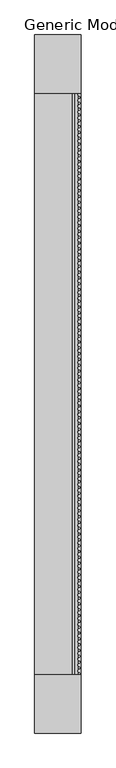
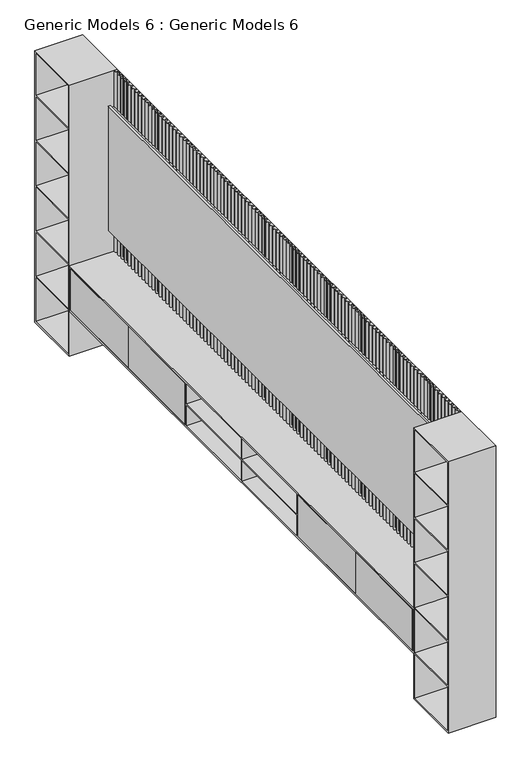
"""IFC4 building model written with IfcOpenShell, lengths in millimetres: proxy geometry, Generic Models 6 : Generic Models 6."""

from ifc_helpers import new_model, si_unit, point, frame, frame_2d, origin, place, context, project, spatial, polyline, circle_curve, trimmed, segment, composite_curve, outline, extrude, faceted_brep, source, transform, mapped, element, save


def generic_models_6_generic_models_6_49623b60(model_context):
    return source(origin(), model_context, "Body", "SolidModel", [
        extrude(outline(polyline([(10077.9525098, -4060.8133336), (10077.9525098, -3228.6133336), (10093.9525098, -3228.6133336), (10093.9525098, -4060.8133336), (10077.9525098, -4060.8133336)])), frame((0.0, 0.0, 418.0), z_axis=(0.0, 0.0, 1.0), x_axis=(1.0, 0.0, 0.0)), (0.0, 0.0, 1.0), 364.0),
        extrude(outline(polyline([(10077.9525098, -4891.0133336), (10077.9525098, -4062.8133336), (10093.9525098, -4062.8133336), (10093.9525098, -4891.0133336), (10077.9525098, -4891.0133336)])), frame((0.0, 0.0, 418.0), z_axis=(0.0, 0.0, 1.0), x_axis=(1.0, 0.0, 0.0)), (0.0, 0.0, 1.0), 364.0),
        extrude(outline(polyline([(10077.9525098, -762.4133336), (10077.9525098, 69.7866664), (10093.9525098, 69.7866664), (10093.9525098, -762.4133336), (10077.9525098, -762.4133336)])), frame((0.0, 0.0, 418.0), z_axis=(0.0, 0.0, 1.0), x_axis=(1.0, 0.0, 0.0)), (0.0, 0.0, 1.0), 364.0),
        extrude(outline(polyline([(10077.9525098, -1592.6133336), (10077.9525098, -764.4133336), (10093.9525098, -764.4133336), (10093.9525098, -1592.6133336), (10077.9525098, -1592.6133336)])), frame((0.0, 0.0, 418.0), z_axis=(0.0, 0.0, 1.0), x_axis=(1.0, 0.0, 0.0)), (0.0, 0.0, 1.0), 364.0),
        faceted_brep([(10077.9525098, 87.7866664, 400.0), (10077.9525098, -4909.0133336, 400.0), (10077.9525098, -4909.0133336, 800.0), (10077.9525098, 87.7866664, 800.0), (10077.9525098, -3210.6133336, 592.0), (10077.9525098, -3210.6133336, 416.0), (10077.9525098, -2418.6133336, 416.0), (10077.9525098, -2418.6133336, 592.0), (10077.9525098, -1610.6133336, 416.0), (10077.9525098, -1610.6133336, 592.0), (10077.9525098, -2402.6133336, 592.0), (10077.9525098, -2402.6133336, 416.0), (10077.9525098, -1610.6133336, 784.0), (10077.9525098, -2402.6133336, 784.0), (10077.9525098, -2402.6133336, 608.0), (10077.9525098, -1610.6133336, 608.0), (10077.9525098, -3210.6133336, 784.0), (10077.9525098, -3210.6133336, 608.0), (10077.9525098, -2418.6133336, 608.0), (10077.9525098, -2418.6133336, 784.0), (10077.9525098, -1594.6133336, 416.0), (10077.9525098, 71.7866664, 416.0), (10077.9525098, 71.7866664, 784.0), (10077.9525098, -1594.6133336, 784.0), (10077.9525098, -4893.0133336, 416.0), (10077.9525098, -3226.6133336, 416.0), (10077.9525098, -3226.6133336, 784.0), (10077.9525098, -4893.0133336, 784.0), (10477.9525098, 87.7866664, 400.0), (10477.9525098, 87.7866664, 800.0), (10477.9525098, -4909.0133336, 800.0), (10477.9525098, -4909.0133336, 400.0), (10457.9525098, -2402.6133336, 784.0), (10457.9525098, -1610.6133336, 784.0), (10457.9525098, -1610.6133336, 608.0), (10457.9525098, -2402.6133336, 608.0), (10457.9525098, -1610.6133336, 592.0), (10457.9525098, -1610.6133336, 416.0), (10457.9525098, -2402.6133336, 416.0), (10457.9525098, -2402.6133336, 592.0), (10457.9525098, -3210.6133336, 592.0), (10457.9525098, -2418.6133336, 592.0), (10457.9525098, -2418.6133336, 416.0), (10457.9525098, -3210.6133336, 416.0), (10457.9525098, -3210.6133336, 784.0), (10457.9525098, -2418.6133336, 784.0), (10457.9525098, -2418.6133336, 608.0), (10457.9525098, -3210.6133336, 608.0), (10093.9525098, -1594.6133336, 416.0), (10093.9525098, -1594.6133336, 784.0), (10093.9525098, 71.7866664, 784.0), (10093.9525098, 71.7866664, 416.0), (10093.9525098, -4893.0133336, 416.0), (10093.9525098, -4893.0133336, 784.0), (10093.9525098, -3226.6133336, 784.0), (10093.9525098, -3226.6133336, 416.0)], [[[0, 1, 2, 3], [4, 5, 6, 7], [8, 9, 10, 11], [12, 13, 14, 15], [16, 17, 18, 19], [20, 21, 22, 23], [24, 25, 26, 27]], [[28, 29, 30, 31]], [[1, 0, 28, 31]], [[2, 1, 31, 30]], [[3, 2, 30, 29]], [[0, 3, 29, 28]], [[32, 33, 34, 35]], [[36, 37, 38, 39]], [[40, 41, 42, 43]], [[44, 45, 46, 47]], [[40, 43, 5, 4]], [[43, 42, 6, 5]], [[37, 36, 9, 8]], [[33, 32, 13, 12]], [[42, 41, 7, 6]], [[41, 40, 4, 7]], [[36, 39, 10, 9]], [[39, 38, 11, 10]], [[38, 37, 8, 11]], [[32, 35, 14, 13]], [[35, 34, 15, 14]], [[34, 33, 12, 15]], [[44, 47, 17, 16]], [[47, 46, 18, 17]], [[46, 45, 19, 18]], [[45, 44, 16, 19]], [[48, 49, 50, 51]], [[52, 53, 54, 55]], [[48, 51, 21, 20]], [[51, 50, 22, 21]], [[50, 49, 23, 22]], [[49, 48, 20, 23]], [[52, 55, 25, 24]], [[55, 54, 26, 25]], [[54, 53, 27, 26]], [[53, 52, 24, 27]]]),
        faceted_brep([(10077.9525098, -5409.0133336, 0.0), (10077.9525098, -5409.0133336, 2400.0), (10077.9525098, -4909.0133336, 2400.0), (10077.9525098, -4909.0133336, 0.0), (10077.9525098, -4925.0133336, 400.0), (10077.9525098, -5393.0133336, 400.0), (10077.9525098, -5393.0133336, 16.0), (10077.9525098, -4925.0133336, 16.0), (10077.9525098, -4925.0133336, 800.0), (10077.9525098, -5393.0133336, 800.0), (10077.9525098, -5393.0133336, 416.0), (10077.9525098, -4925.0133336, 416.0), (10077.9525098, -4925.0133336, 816.0), (10077.9525098, -4925.0133336, 1200.0), (10077.9525098, -5393.0133336, 1200.0), (10077.9525098, -5393.0133336, 816.0), (10077.9525098, -4925.0133336, 1216.0), (10077.9525098, -4925.0133336, 1600.0), (10077.9525098, -5393.0133336, 1600.0), (10077.9525098, -5393.0133336, 1216.0), (10077.9525098, -4925.0133336, 1616.0), (10077.9525098, -4925.0133336, 2000.0), (10077.9525098, -5393.0133336, 2000.0), (10077.9525098, -5393.0133336, 1616.0), (10077.9525098, -4925.0133336, 2016.0), (10077.9525098, -4925.0133336, 2384.0), (10077.9525098, -5393.0133336, 2384.0), (10077.9525098, -5393.0133336, 2016.0), (10477.9525098, -5409.0133336, 0.0), (10477.9525098, -4909.0133336, 0.0), (10477.9525098, -4909.0133336, 2400.0), (10477.9525098, -5409.0133336, 2400.0), (10437.9525098, -4925.0133336, 400.0), (10437.9525098, -4925.0133336, 16.0), (10437.9525098, -5393.0133336, 16.0), (10437.9525098, -5393.0133336, 400.0), (10437.9525098, -4925.0133336, 800.0), (10437.9525098, -4925.0133336, 416.0), (10437.9525098, -5393.0133336, 416.0), (10437.9525098, -5393.0133336, 800.0), (10437.9525098, -4925.0133336, 816.0), (10437.9525098, -5393.0133336, 816.0), (10437.9525098, -5393.0133336, 1200.0), (10437.9525098, -4925.0133336, 1200.0), (10437.9525098, -4925.0133336, 1216.0), (10437.9525098, -5393.0133336, 1216.0), (10437.9525098, -5393.0133336, 1600.0), (10437.9525098, -4925.0133336, 1600.0), (10437.9525098, -4925.0133336, 1616.0), (10437.9525098, -5393.0133336, 1616.0), (10437.9525098, -5393.0133336, 2000.0), (10437.9525098, -4925.0133336, 2000.0), (10437.9525098, -4925.0133336, 2016.0), (10437.9525098, -5393.0133336, 2016.0), (10437.9525098, -5393.0133336, 2384.0), (10437.9525098, -4925.0133336, 2384.0)], [[[0, 1, 2, 3], [4, 5, 6, 7], [8, 9, 10, 11], [12, 13, 14, 15], [16, 17, 18, 19], [20, 21, 22, 23], [24, 25, 26, 27]], [[28, 29, 30, 31]], [[1, 0, 28, 31]], [[2, 1, 31, 30]], [[3, 2, 30, 29]], [[0, 3, 29, 28]], [[32, 33, 34, 35]], [[36, 37, 38, 39]], [[40, 41, 42, 43]], [[44, 45, 46, 47]], [[48, 49, 50, 51]], [[52, 53, 54, 55]], [[32, 35, 5, 4]], [[35, 34, 6, 5]], [[34, 33, 7, 6]], [[33, 32, 4, 7]], [[36, 39, 9, 8]], [[39, 38, 10, 9]], [[38, 37, 11, 10]], [[37, 36, 8, 11]], [[40, 43, 13, 12]], [[43, 42, 14, 13]], [[42, 41, 15, 14]], [[41, 40, 12, 15]], [[44, 47, 17, 16]], [[47, 46, 18, 17]], [[46, 45, 19, 18]], [[45, 44, 16, 19]], [[48, 51, 21, 20]], [[51, 50, 22, 21]], [[50, 49, 23, 22]], [[49, 48, 20, 23]], [[52, 55, 25, 24]], [[55, 54, 26, 25]], [[54, 53, 27, 26]], [[53, 52, 24, 27]]]),
        faceted_brep([(10077.9525098, 87.7866664, 2400.0), (10077.9525098, 587.7866664, 2400.0), (10077.9525098, 587.7866664, 0.0), (10077.9525098, 87.7866664, 0.0), (10077.9525098, 571.7866664, 400.0), (10077.9525098, 103.7866664, 400.0), (10077.9525098, 103.7866664, 16.0), (10077.9525098, 571.7866664, 16.0), (10077.9525098, 571.7866664, 800.0), (10077.9525098, 103.7866664, 800.0), (10077.9525098, 103.7866664, 416.0), (10077.9525098, 571.7866664, 416.0), (10077.9525098, 571.7866664, 816.0), (10077.9525098, 571.7866664, 1200.0), (10077.9525098, 103.7866664, 1200.0), (10077.9525098, 103.7866664, 816.0), (10077.9525098, 571.7866664, 1216.0), (10077.9525098, 571.7866664, 1600.0), (10077.9525098, 103.7866664, 1600.0), (10077.9525098, 103.7866664, 1216.0), (10077.9525098, 571.7866664, 1616.0), (10077.9525098, 571.7866664, 2000.0), (10077.9525098, 103.7866664, 2000.0), (10077.9525098, 103.7866664, 1616.0), (10077.9525098, 571.7866664, 2016.0), (10077.9525098, 571.7866664, 2384.0), (10077.9525098, 103.7866664, 2384.0), (10077.9525098, 103.7866664, 2016.0), (10477.9525098, 87.7866664, 2400.0), (10477.9525098, 87.7866664, 0.0), (10477.9525098, 587.7866664, 0.0), (10477.9525098, 587.7866664, 2400.0), (10437.9525098, 571.7866664, 400.0), (10437.9525098, 571.7866664, 16.0), (10437.9525098, 103.7866664, 16.0), (10437.9525098, 103.7866664, 400.0), (10437.9525098, 571.7866664, 800.0), (10437.9525098, 571.7866664, 416.0), (10437.9525098, 103.7866664, 416.0), (10437.9525098, 103.7866664, 800.0), (10437.9525098, 571.7866664, 816.0), (10437.9525098, 103.7866664, 816.0), (10437.9525098, 103.7866664, 1200.0), (10437.9525098, 571.7866664, 1200.0), (10437.9525098, 571.7866664, 1216.0), (10437.9525098, 103.7866664, 1216.0), (10437.9525098, 103.7866664, 1600.0), (10437.9525098, 571.7866664, 1600.0), (10437.9525098, 571.7866664, 1616.0), (10437.9525098, 103.7866664, 1616.0), (10437.9525098, 103.7866664, 2000.0), (10437.9525098, 571.7866664, 2000.0), (10437.9525098, 571.7866664, 2016.0), (10437.9525098, 103.7866664, 2016.0), (10437.9525098, 103.7866664, 2384.0), (10437.9525098, 571.7866664, 2384.0)], [[[0, 1, 2, 3], [4, 5, 6, 7], [8, 9, 10, 11], [12, 13, 14, 15], [16, 17, 18, 19], [20, 21, 22, 23], [24, 25, 26, 27]], [[28, 29, 30, 31]], [[1, 0, 28, 31]], [[2, 1, 31, 30]], [[3, 2, 30, 29]], [[0, 3, 29, 28]], [[32, 33, 34, 35]], [[36, 37, 38, 39]], [[40, 41, 42, 43]], [[44, 45, 46, 47]], [[48, 49, 50, 51]], [[52, 53, 54, 55]], [[32, 35, 5, 4]], [[35, 34, 6, 5]], [[34, 33, 7, 6]], [[33, 32, 4, 7]], [[36, 39, 9, 8]], [[39, 38, 10, 9]], [[38, 37, 11, 10]], [[37, 36, 8, 11]], [[40, 43, 13, 12]], [[43, 42, 14, 13]], [[42, 41, 15, 14]], [[41, 40, 12, 15]], [[44, 47, 17, 16]], [[47, 46, 18, 17]], [[46, 45, 19, 18]], [[45, 44, 16, 19]], [[48, 51, 21, 20]], [[51, 50, 22, 21]], [[50, 49, 23, 22]], [[49, 48, 20, 23]], [[52, 55, 25, 24]], [[55, 54, 26, 25]], [[54, 53, 27, 26]], [[53, 52, 24, 27]]]),
        extrude(outline(polyline([(2100.0, 10403.4562389), (1000.0, 10403.4562389), (1000.0, 10419.4562389), (1020.0, 10419.4562389), (1020.0, 10449.4562389), (2080.0, 10449.4562389), (2080.0, 10419.4562389), (2100.0, 10419.4562389), (2100.0, 10403.4562389)])), frame((0.0, -4909.0133336, 0.0), z_axis=(0.0, 1.0, 0.0), x_axis=(0.0, 0.0, 1.0)), (0.0, 0.0, 1.0), 4996.8),
        extrude(outline(composite_curve([segment(polyline([(10477.9525098, -4909.0133336), (10470.304755, -4909.0133336)]), True, "CONTINUOUS"), segment(trimmed(circle_curve(frame_2d((10461.9525098, -4899.7133336)), 12.5), [point((10470.304755, -4909.0133336))], [point((10461.9525098, -4887.2133336))], True, "CARTESIAN"), True, "CONTINUOUS"), segment(trimmed(circle_curve(frame_2d((10461.9525098, -4874.7133336)), 12.5), [point((10461.9525098, -4887.2133336))], [point((10461.9525098, -4862.2133336))], False, "CARTESIAN"), True, "CONTINUOUS"), segment(trimmed(circle_curve(frame_2d((10461.9525098, -4849.7133336)), 12.5), [point((10461.9525098, -4862.2133336))], [point((10461.9525098, -4837.2133336))], True, "CARTESIAN"), True, "CONTINUOUS"), segment(trimmed(circle_curve(frame_2d((10461.9525098, -4824.7133336)), 12.5), [point((10461.9525098, -4837.2133336))], [point((10461.9525098, -4812.2133336))], False, "CARTESIAN"), True, "CONTINUOUS"), segment(trimmed(circle_curve(frame_2d((10461.9525098, -4799.7133336)), 12.5), [point((10461.9525098, -4812.2133336))], [point((10461.9525098, -4787.2133336))], True, "CARTESIAN"), True, "CONTINUOUS"), segment(trimmed(circle_curve(frame_2d((10461.9525098, -4774.7133336)), 12.5), [point((10461.9525098, -4787.2133336))], [point((10461.9525098, -4762.2133336))], False, "CARTESIAN"), True, "CONTINUOUS"), segment(trimmed(circle_curve(frame_2d((10461.9525098, -4749.7133336)), 12.5), [point((10461.9525098, -4762.2133336))], [point((10461.9525098, -4737.2133336))], True, "CARTESIAN"), True, "CONTINUOUS"), segment(trimmed(circle_curve(frame_2d((10461.9525098, -4724.7133336)), 12.5), [point((10461.9525098, -4737.2133336))], [point((10461.9525098, -4712.2133336))], False, "CARTESIAN"), True, "CONTINUOUS"), segment(trimmed(circle_curve(frame_2d((10461.9525098, -4699.7133336)), 12.5), [point((10461.9525098, -4712.2133336))], [point((10461.9525098, -4687.2133336))], True, "CARTESIAN"), True, "CONTINUOUS"), segment(trimmed(circle_curve(frame_2d((10461.9525098, -4674.7133336)), 12.5), [point((10461.9525098, -4687.2133336))], [point((10461.9525098, -4662.2133336))], False, "CARTESIAN"), True, "CONTINUOUS"), segment(trimmed(circle_curve(frame_2d((10461.9525098, -4649.7133336)), 12.5), [point((10461.9525098, -4662.2133336))], [point((10461.9525098, -4637.2133336))], True, "CARTESIAN"), True, "CONTINUOUS"), segment(trimmed(circle_curve(frame_2d((10461.9525098, -4624.7133336)), 12.5), [point((10461.9525098, -4637.2133336))], [point((10461.9525098, -4612.2133336))], False, "CARTESIAN"), True, "CONTINUOUS"), segment(trimmed(circle_curve(frame_2d((10461.9525098, -4599.7133336)), 12.5), [point((10461.9525098, -4612.2133336))], [point((10461.9525098, -4587.2133336))], True, "CARTESIAN"), True, "CONTINUOUS"), segment(trimmed(circle_curve(frame_2d((10461.9525098, -4574.7133336)), 12.5), [point((10461.9525098, -4587.2133336))], [point((10461.9525098, -4562.2133336))], False, "CARTESIAN"), True, "CONTINUOUS"), segment(trimmed(circle_curve(frame_2d((10461.9525098, -4549.7133336)), 12.5), [point((10461.9525098, -4562.2133336))], [point((10461.9525098, -4537.2133336))], True, "CARTESIAN"), True, "CONTINUOUS"), segment(trimmed(circle_curve(frame_2d((10461.9525098, -4524.7133336)), 12.5), [point((10461.9525098, -4537.2133336))], [point((10461.9525098, -4512.2133336))], False, "CARTESIAN"), True, "CONTINUOUS"), segment(trimmed(circle_curve(frame_2d((10461.9525098, -4499.7133336)), 12.5), [point((10461.9525098, -4512.2133336))], [point((10461.9525098, -4487.2133336))], True, "CARTESIAN"), True, "CONTINUOUS"), segment(trimmed(circle_curve(frame_2d((10461.9525098, -4474.7133336)), 12.5), [point((10461.9525098, -4487.2133336))], [point((10461.9525098, -4462.2133336))], False, "CARTESIAN"), True, "CONTINUOUS"), segment(trimmed(circle_curve(frame_2d((10461.9525098, -4449.7133336)), 12.5), [point((10461.9525098, -4462.2133336))], [point((10461.9525098, -4437.2133336))], True, "CARTESIAN"), True, "CONTINUOUS"), segment(trimmed(circle_curve(frame_2d((10461.9525098, -4424.7133336)), 12.5), [point((10461.9525098, -4437.2133336))], [point((10461.9525098, -4412.2133336))], False, "CARTESIAN"), True, "CONTINUOUS"), segment(trimmed(circle_curve(frame_2d((10461.9525098, -4399.7133336)), 12.5), [point((10461.9525098, -4412.2133336))], [point((10461.9525098, -4387.2133336))], True, "CARTESIAN"), True, "CONTINUOUS"), segment(trimmed(circle_curve(frame_2d((10461.9525098, -4374.7133336)), 12.5), [point((10461.9525098, -4387.2133336))], [point((10461.9525098, -4362.2133336))], False, "CARTESIAN"), True, "CONTINUOUS"), segment(trimmed(circle_curve(frame_2d((10461.9525098, -4349.7133336)), 12.5), [point((10461.9525098, -4362.2133336))], [point((10461.9525098, -4337.2133336))], True, "CARTESIAN"), True, "CONTINUOUS"), segment(trimmed(circle_curve(frame_2d((10461.9525098, -4324.7133336)), 12.5), [point((10461.9525098, -4337.2133336))], [point((10461.9525098, -4312.2133336))], False, "CARTESIAN"), True, "CONTINUOUS"), segment(trimmed(circle_curve(frame_2d((10461.9525098, -4299.7133336)), 12.5), [point((10461.9525098, -4312.2133336))], [point((10461.9525098, -4287.2133336))], True, "CARTESIAN"), True, "CONTINUOUS"), segment(trimmed(circle_curve(frame_2d((10461.9525098, -4274.7133336)), 12.5), [point((10461.9525098, -4287.2133336))], [point((10461.9525098, -4262.2133336))], False, "CARTESIAN"), True, "CONTINUOUS"), segment(trimmed(circle_curve(frame_2d((10461.9525098, -4249.7133336)), 12.5), [point((10461.9525098, -4262.2133336))], [point((10461.9525098, -4237.2133336))], True, "CARTESIAN"), True, "CONTINUOUS"), segment(trimmed(circle_curve(frame_2d((10461.9525098, -4224.7133336)), 12.5), [point((10461.9525098, -4237.2133336))], [point((10461.9525098, -4212.2133336))], False, "CARTESIAN"), True, "CONTINUOUS"), segment(trimmed(circle_curve(frame_2d((10461.9525098, -4199.7133336)), 12.5), [point((10461.9525098, -4212.2133336))], [point((10461.9525098, -4187.2133336))], True, "CARTESIAN"), True, "CONTINUOUS"), segment(trimmed(circle_curve(frame_2d((10461.9525098, -4174.7133336)), 12.5), [point((10461.9525098, -4187.2133336))], [point((10461.9525098, -4162.2133336))], False, "CARTESIAN"), True, "CONTINUOUS"), segment(trimmed(circle_curve(frame_2d((10461.9525098, -4149.7133336)), 12.5), [point((10461.9525098, -4162.2133336))], [point((10461.9525098, -4137.2133336))], True, "CARTESIAN"), True, "CONTINUOUS"), segment(trimmed(circle_curve(frame_2d((10461.9525098, -4124.7133336)), 12.5), [point((10461.9525098, -4137.2133336))], [point((10461.9525098, -4112.2133336))], False, "CARTESIAN"), True, "CONTINUOUS"), segment(trimmed(circle_curve(frame_2d((10461.9525098, -4099.7133336)), 12.5), [point((10461.9525098, -4112.2133336))], [point((10461.9525098, -4087.2133336))], True, "CARTESIAN"), True, "CONTINUOUS"), segment(trimmed(circle_curve(frame_2d((10461.9525098, -4074.7133336)), 12.5), [point((10461.9525098, -4087.2133336))], [point((10461.9525098, -4062.2133336))], False, "CARTESIAN"), True, "CONTINUOUS"), segment(trimmed(circle_curve(frame_2d((10461.9525098, -4049.7133336)), 12.5), [point((10461.9525098, -4062.2133336))], [point((10461.9525098, -4037.2133336))], True, "CARTESIAN"), True, "CONTINUOUS"), segment(trimmed(circle_curve(frame_2d((10461.9525098, -4024.7133336)), 12.5), [point((10461.9525098, -4037.2133336))], [point((10461.9525098, -4012.2133336))], False, "CARTESIAN"), True, "CONTINUOUS"), segment(trimmed(circle_curve(frame_2d((10461.9525098, -3999.7133336)), 12.5), [point((10461.9525098, -4012.2133336))], [point((10461.9525098, -3987.2133336))], True, "CARTESIAN"), True, "CONTINUOUS"), segment(trimmed(circle_curve(frame_2d((10461.9525098, -3974.7133336)), 12.5), [point((10461.9525098, -3987.2133336))], [point((10461.9525098, -3962.2133336))], False, "CARTESIAN"), True, "CONTINUOUS"), segment(trimmed(circle_curve(frame_2d((10461.9525098, -3949.7133336)), 12.5), [point((10461.9525098, -3962.2133336))], [point((10461.9525098, -3937.2133336))], True, "CARTESIAN"), True, "CONTINUOUS"), segment(trimmed(circle_curve(frame_2d((10461.9525098, -3924.7133336)), 12.5), [point((10461.9525098, -3937.2133336))], [point((10461.9525098, -3912.2133336))], False, "CARTESIAN"), True, "CONTINUOUS"), segment(trimmed(circle_curve(frame_2d((10461.9525098, -3899.7133336)), 12.5), [point((10461.9525098, -3912.2133336))], [point((10461.9525098, -3887.2133336))], True, "CARTESIAN"), True, "CONTINUOUS"), segment(trimmed(circle_curve(frame_2d((10461.9525098, -3874.7133336)), 12.5), [point((10461.9525098, -3887.2133336))], [point((10461.9525098, -3862.2133336))], False, "CARTESIAN"), True, "CONTINUOUS"), segment(trimmed(circle_curve(frame_2d((10461.9525098, -3849.7133336)), 12.5), [point((10461.9525098, -3862.2133336))], [point((10461.9525098, -3837.2133336))], True, "CARTESIAN"), True, "CONTINUOUS"), segment(trimmed(circle_curve(frame_2d((10461.9525098, -3824.7133336)), 12.5), [point((10461.9525098, -3837.2133336))], [point((10461.9525098, -3812.2133336))], False, "CARTESIAN"), True, "CONTINUOUS"), segment(trimmed(circle_curve(frame_2d((10461.9525098, -3799.7133336)), 12.5), [point((10461.9525098, -3812.2133336))], [point((10461.9525098, -3787.2133336))], True, "CARTESIAN"), True, "CONTINUOUS"), segment(trimmed(circle_curve(frame_2d((10461.9525098, -3774.7133336)), 12.5), [point((10461.9525098, -3787.2133336))], [point((10461.9525098, -3762.2133336))], False, "CARTESIAN"), True, "CONTINUOUS"), segment(trimmed(circle_curve(frame_2d((10461.9525098, -3749.7133336)), 12.5), [point((10461.9525098, -3762.2133336))], [point((10461.9525098, -3737.2133336))], True, "CARTESIAN"), True, "CONTINUOUS"), segment(trimmed(circle_curve(frame_2d((10461.9525098, -3724.7133336)), 12.5), [point((10461.9525098, -3737.2133336))], [point((10461.9525098, -3712.2133336))], False, "CARTESIAN"), True, "CONTINUOUS"), segment(trimmed(circle_curve(frame_2d((10461.9525098, -3699.7133336)), 12.5), [point((10461.9525098, -3712.2133336))], [point((10461.9525098, -3687.2133336))], True, "CARTESIAN"), True, "CONTINUOUS"), segment(trimmed(circle_curve(frame_2d((10461.9525098, -3674.7133336)), 12.5), [point((10461.9525098, -3687.2133336))], [point((10461.9525098, -3662.2133336))], False, "CARTESIAN"), True, "CONTINUOUS"), segment(trimmed(circle_curve(frame_2d((10461.9525098, -3649.7133336)), 12.5), [point((10461.9525098, -3662.2133336))], [point((10461.9525098, -3637.2133336))], True, "CARTESIAN"), True, "CONTINUOUS"), segment(trimmed(circle_curve(frame_2d((10461.9525098, -3624.7133336)), 12.5), [point((10461.9525098, -3637.2133336))], [point((10461.9525098, -3612.2133336))], False, "CARTESIAN"), True, "CONTINUOUS"), segment(trimmed(circle_curve(frame_2d((10461.9525098, -3599.7133336)), 12.5), [point((10461.9525098, -3612.2133336))], [point((10461.9525098, -3587.2133336))], True, "CARTESIAN"), True, "CONTINUOUS"), segment(trimmed(circle_curve(frame_2d((10461.9525098, -3574.7133336)), 12.5), [point((10461.9525098, -3587.2133336))], [point((10461.9525098, -3562.2133336))], False, "CARTESIAN"), True, "CONTINUOUS"), segment(trimmed(circle_curve(frame_2d((10461.9525098, -3549.7133336)), 12.5), [point((10461.9525098, -3562.2133336))], [point((10461.9525098, -3537.2133336))], True, "CARTESIAN"), True, "CONTINUOUS"), segment(trimmed(circle_curve(frame_2d((10461.9525098, -3524.7133336)), 12.5), [point((10461.9525098, -3537.2133336))], [point((10461.9525098, -3512.2133336))], False, "CARTESIAN"), True, "CONTINUOUS"), segment(trimmed(circle_curve(frame_2d((10461.9525098, -3499.7133336)), 12.5), [point((10461.9525098, -3512.2133336))], [point((10461.9525098, -3487.2133336))], True, "CARTESIAN"), True, "CONTINUOUS"), segment(trimmed(circle_curve(frame_2d((10461.9525098, -3474.7133336)), 12.5), [point((10461.9525098, -3487.2133336))], [point((10461.9525098, -3462.2133336))], False, "CARTESIAN"), True, "CONTINUOUS"), segment(trimmed(circle_curve(frame_2d((10461.9525098, -3449.7133336)), 12.5), [point((10461.9525098, -3462.2133336))], [point((10461.9525098, -3437.2133336))], True, "CARTESIAN"), True, "CONTINUOUS"), segment(trimmed(circle_curve(frame_2d((10461.9525098, -3424.7133336)), 12.5), [point((10461.9525098, -3437.2133336))], [point((10461.9525098, -3412.2133336))], False, "CARTESIAN"), True, "CONTINUOUS"), segment(trimmed(circle_curve(frame_2d((10461.9525098, -3399.7133336)), 12.5), [point((10461.9525098, -3412.2133336))], [point((10461.9525098, -3387.2133336))], True, "CARTESIAN"), True, "CONTINUOUS"), segment(trimmed(circle_curve(frame_2d((10461.9525098, -3374.7133336)), 12.5), [point((10461.9525098, -3387.2133336))], [point((10461.9525098, -3362.2133336))], False, "CARTESIAN"), True, "CONTINUOUS"), segment(trimmed(circle_curve(frame_2d((10461.9525098, -3349.7133336)), 12.5), [point((10461.9525098, -3362.2133336))], [point((10461.9525098, -3337.2133336))], True, "CARTESIAN"), True, "CONTINUOUS"), segment(trimmed(circle_curve(frame_2d((10461.9525098, -3324.7133336)), 12.5), [point((10461.9525098, -3337.2133336))], [point((10461.9525098, -3312.2133336))], False, "CARTESIAN"), True, "CONTINUOUS"), segment(trimmed(circle_curve(frame_2d((10461.9525098, -3299.7133336)), 12.5), [point((10461.9525098, -3312.2133336))], [point((10461.9525098, -3287.2133336))], True, "CARTESIAN"), True, "CONTINUOUS"), segment(trimmed(circle_curve(frame_2d((10461.9525098, -3274.7133336)), 12.5), [point((10461.9525098, -3287.2133336))], [point((10461.9525098, -3262.2133336))], False, "CARTESIAN"), True, "CONTINUOUS"), segment(trimmed(circle_curve(frame_2d((10461.9525098, -3249.7133336)), 12.5), [point((10461.9525098, -3262.2133336))], [point((10461.9525098, -3237.2133336))], True, "CARTESIAN"), True, "CONTINUOUS"), segment(trimmed(circle_curve(frame_2d((10461.9525098, -3224.7133336)), 12.5), [point((10461.9525098, -3237.2133336))], [point((10461.9525098, -3212.2133336))], False, "CARTESIAN"), True, "CONTINUOUS"), segment(trimmed(circle_curve(frame_2d((10461.9525098, -3199.7133336)), 12.5), [point((10461.9525098, -3212.2133336))], [point((10461.9525098, -3187.2133336))], True, "CARTESIAN"), True, "CONTINUOUS"), segment(trimmed(circle_curve(frame_2d((10461.9525098, -3174.7133336)), 12.5), [point((10461.9525098, -3187.2133336))], [point((10461.9525098, -3162.2133336))], False, "CARTESIAN"), True, "CONTINUOUS"), segment(trimmed(circle_curve(frame_2d((10461.9525098, -3149.7133336)), 12.5), [point((10461.9525098, -3162.2133336))], [point((10461.9525098, -3137.2133336))], True, "CARTESIAN"), True, "CONTINUOUS"), segment(trimmed(circle_curve(frame_2d((10461.9525098, -3124.7133336)), 12.5), [point((10461.9525098, -3137.2133336))], [point((10461.9525098, -3112.2133336))], False, "CARTESIAN"), True, "CONTINUOUS"), segment(trimmed(circle_curve(frame_2d((10461.9525098, -3099.7133336)), 12.5), [point((10461.9525098, -3112.2133336))], [point((10461.9525098, -3087.2133336))], True, "CARTESIAN"), True, "CONTINUOUS"), segment(trimmed(circle_curve(frame_2d((10461.9525098, -3074.7133336)), 12.5), [point((10461.9525098, -3087.2133336))], [point((10461.9525098, -3062.2133336))], False, "CARTESIAN"), True, "CONTINUOUS"), segment(trimmed(circle_curve(frame_2d((10461.9525098, -3049.7133336)), 12.5), [point((10461.9525098, -3062.2133336))], [point((10461.9525098, -3037.2133336))], True, "CARTESIAN"), True, "CONTINUOUS"), segment(trimmed(circle_curve(frame_2d((10461.9525098, -3024.7133336)), 12.5), [point((10461.9525098, -3037.2133336))], [point((10461.9525098, -3012.2133336))], False, "CARTESIAN"), True, "CONTINUOUS"), segment(trimmed(circle_curve(frame_2d((10461.9525098, -2999.7133336)), 12.5), [point((10461.9525098, -3012.2133336))], [point((10461.9525098, -2987.2133336))], True, "CARTESIAN"), True, "CONTINUOUS"), segment(trimmed(circle_curve(frame_2d((10461.9525098, -2974.7133336)), 12.5), [point((10461.9525098, -2987.2133336))], [point((10461.9525098, -2962.2133336))], False, "CARTESIAN"), True, "CONTINUOUS"), segment(trimmed(circle_curve(frame_2d((10461.9525098, -2949.7133336)), 12.5), [point((10461.9525098, -2962.2133336))], [point((10461.9525098, -2937.2133336))], True, "CARTESIAN"), True, "CONTINUOUS"), segment(trimmed(circle_curve(frame_2d((10461.9525098, -2924.7133336)), 12.5), [point((10461.9525098, -2937.2133336))], [point((10461.9525098, -2912.2133336))], False, "CARTESIAN"), True, "CONTINUOUS"), segment(trimmed(circle_curve(frame_2d((10461.9525098, -2899.7133336)), 12.5), [point((10461.9525098, -2912.2133336))], [point((10461.9525098, -2887.2133336))], True, "CARTESIAN"), True, "CONTINUOUS"), segment(trimmed(circle_curve(frame_2d((10461.9525098, -2874.7133336)), 12.5), [point((10461.9525098, -2887.2133336))], [point((10461.9525098, -2862.2133336))], False, "CARTESIAN"), True, "CONTINUOUS"), segment(trimmed(circle_curve(frame_2d((10461.9525098, -2849.7133336)), 12.5), [point((10461.9525098, -2862.2133336))], [point((10461.9525098, -2837.2133336))], True, "CARTESIAN"), True, "CONTINUOUS"), segment(trimmed(circle_curve(frame_2d((10461.9525098, -2824.7133336)), 12.5), [point((10461.9525098, -2837.2133336))], [point((10461.9525098, -2812.2133336))], False, "CARTESIAN"), True, "CONTINUOUS"), segment(trimmed(circle_curve(frame_2d((10461.9525098, -2799.7133336)), 12.5), [point((10461.9525098, -2812.2133336))], [point((10461.9525098, -2787.2133336))], True, "CARTESIAN"), True, "CONTINUOUS"), segment(trimmed(circle_curve(frame_2d((10461.9525098, -2774.7133336)), 12.5), [point((10461.9525098, -2787.2133336))], [point((10461.9525098, -2762.2133336))], False, "CARTESIAN"), True, "CONTINUOUS"), segment(trimmed(circle_curve(frame_2d((10461.9525098, -2749.7133336)), 12.5), [point((10461.9525098, -2762.2133336))], [point((10461.9525098, -2737.2133336))], True, "CARTESIAN"), True, "CONTINUOUS"), segment(trimmed(circle_curve(frame_2d((10461.9525098, -2724.7133336)), 12.5), [point((10461.9525098, -2737.2133336))], [point((10461.9525098, -2712.2133336))], False, "CARTESIAN"), True, "CONTINUOUS"), segment(trimmed(circle_curve(frame_2d((10461.9525098, -2699.7133336)), 12.5), [point((10461.9525098, -2712.2133336))], [point((10461.9525098, -2687.2133336))], True, "CARTESIAN"), True, "CONTINUOUS"), segment(trimmed(circle_curve(frame_2d((10461.9525098, -2674.7133336)), 12.5), [point((10461.9525098, -2687.2133336))], [point((10461.9525098, -2662.2133336))], False, "CARTESIAN"), True, "CONTINUOUS"), segment(trimmed(circle_curve(frame_2d((10461.9525098, -2649.7133336)), 12.5), [point((10461.9525098, -2662.2133336))], [point((10461.9525098, -2637.2133336))], True, "CARTESIAN"), True, "CONTINUOUS"), segment(trimmed(circle_curve(frame_2d((10461.9525098, -2624.7133336)), 12.5), [point((10461.9525098, -2637.2133336))], [point((10461.9525098, -2612.2133336))], False, "CARTESIAN"), True, "CONTINUOUS"), segment(trimmed(circle_curve(frame_2d((10461.9525098, -2599.7133336)), 12.5), [point((10461.9525098, -2612.2133336))], [point((10461.9525098, -2587.2133336))], True, "CARTESIAN"), True, "CONTINUOUS"), segment(trimmed(circle_curve(frame_2d((10461.9525098, -2574.7133336)), 12.5), [point((10461.9525098, -2587.2133336))], [point((10461.9525098, -2562.2133336))], False, "CARTESIAN"), True, "CONTINUOUS"), segment(trimmed(circle_curve(frame_2d((10461.9525098, -2549.7133336)), 12.5), [point((10461.9525098, -2562.2133336))], [point((10461.9525098, -2537.2133336))], True, "CARTESIAN"), True, "CONTINUOUS"), segment(trimmed(circle_curve(frame_2d((10461.9525098, -2524.7133336)), 12.5), [point((10461.9525098, -2537.2133336))], [point((10461.9525098, -2512.2133336))], False, "CARTESIAN"), True, "CONTINUOUS"), segment(trimmed(circle_curve(frame_2d((10461.9525098, -2499.7133336)), 12.5), [point((10461.9525098, -2512.2133336))], [point((10461.9525098, -2487.2133336))], True, "CARTESIAN"), True, "CONTINUOUS"), segment(trimmed(circle_curve(frame_2d((10461.9525098, -2474.7133336)), 12.5), [point((10461.9525098, -2487.2133336))], [point((10461.9525098, -2462.2133336))], False, "CARTESIAN"), True, "CONTINUOUS"), segment(trimmed(circle_curve(frame_2d((10461.9525098, -2449.7133336)), 12.5), [point((10461.9525098, -2462.2133336))], [point((10461.9525098, -2437.2133336))], True, "CARTESIAN"), True, "CONTINUOUS"), segment(trimmed(circle_curve(frame_2d((10461.9525098, -2424.7133336)), 12.5), [point((10461.9525098, -2437.2133336))], [point((10461.9525098, -2412.2133336))], False, "CARTESIAN"), True, "CONTINUOUS"), segment(trimmed(circle_curve(frame_2d((10461.9525098, -2399.7133336)), 12.5), [point((10461.9525098, -2412.2133336))], [point((10461.9525098, -2387.2133336))], True, "CARTESIAN"), True, "CONTINUOUS"), segment(trimmed(circle_curve(frame_2d((10461.9525098, -2374.7133336)), 12.5), [point((10461.9525098, -2387.2133336))], [point((10461.9525098, -2362.2133336))], False, "CARTESIAN"), True, "CONTINUOUS"), segment(trimmed(circle_curve(frame_2d((10461.9525098, -2349.7133336)), 12.5), [point((10461.9525098, -2362.2133336))], [point((10461.9525098, -2337.2133336))], True, "CARTESIAN"), True, "CONTINUOUS"), segment(trimmed(circle_curve(frame_2d((10461.9525098, -2324.7133336)), 12.5), [point((10461.9525098, -2337.2133336))], [point((10461.9525098, -2312.2133336))], False, "CARTESIAN"), True, "CONTINUOUS"), segment(trimmed(circle_curve(frame_2d((10461.9525098, -2299.7133336)), 12.5), [point((10461.9525098, -2312.2133336))], [point((10461.9525098, -2287.2133336))], True, "CARTESIAN"), True, "CONTINUOUS"), segment(trimmed(circle_curve(frame_2d((10461.9525098, -2274.7133336)), 12.5), [point((10461.9525098, -2287.2133336))], [point((10461.9525098, -2262.2133336))], False, "CARTESIAN"), True, "CONTINUOUS"), segment(trimmed(circle_curve(frame_2d((10461.9525098, -2249.7133336)), 12.5), [point((10461.9525098, -2262.2133336))], [point((10461.9525098, -2237.2133336))], True, "CARTESIAN"), True, "CONTINUOUS"), segment(trimmed(circle_curve(frame_2d((10461.9525098, -2224.7133336)), 12.5), [point((10461.9525098, -2237.2133336))], [point((10461.9525098, -2212.2133336))], False, "CARTESIAN"), True, "CONTINUOUS"), segment(trimmed(circle_curve(frame_2d((10461.9525098, -2199.7133336)), 12.5), [point((10461.9525098, -2212.2133336))], [point((10461.9525098, -2187.2133336))], True, "CARTESIAN"), True, "CONTINUOUS"), segment(trimmed(circle_curve(frame_2d((10461.9525098, -2174.7133336)), 12.5), [point((10461.9525098, -2187.2133336))], [point((10461.9525098, -2162.2133336))], False, "CARTESIAN"), True, "CONTINUOUS"), segment(trimmed(circle_curve(frame_2d((10461.9525098, -2149.7133336)), 12.5), [point((10461.9525098, -2162.2133336))], [point((10461.9525098, -2137.2133336))], True, "CARTESIAN"), True, "CONTINUOUS"), segment(trimmed(circle_curve(frame_2d((10461.9525098, -2124.7133336)), 12.5), [point((10461.9525098, -2137.2133336))], [point((10461.9525098, -2112.2133336))], False, "CARTESIAN"), True, "CONTINUOUS"), segment(trimmed(circle_curve(frame_2d((10461.9525098, -2099.7133336)), 12.5), [point((10461.9525098, -2112.2133336))], [point((10461.9525098, -2087.2133336))], True, "CARTESIAN"), True, "CONTINUOUS"), segment(trimmed(circle_curve(frame_2d((10461.9525098, -2074.7133336)), 12.5), [point((10461.9525098, -2087.2133336))], [point((10461.9525098, -2062.2133336))], False, "CARTESIAN"), True, "CONTINUOUS"), segment(trimmed(circle_curve(frame_2d((10461.9525098, -2049.7133336)), 12.5), [point((10461.9525098, -2062.2133336))], [point((10461.9525098, -2037.2133336))], True, "CARTESIAN"), True, "CONTINUOUS"), segment(trimmed(circle_curve(frame_2d((10461.9525098, -2024.7133336)), 12.5), [point((10461.9525098, -2037.2133336))], [point((10461.9525098, -2012.2133336))], False, "CARTESIAN"), True, "CONTINUOUS"), segment(trimmed(circle_curve(frame_2d((10461.9525098, -1999.7133336)), 12.5), [point((10461.9525098, -2012.2133336))], [point((10461.9525098, -1987.2133336))], True, "CARTESIAN"), True, "CONTINUOUS"), segment(trimmed(circle_curve(frame_2d((10461.9525098, -1974.7133336)), 12.5), [point((10461.9525098, -1987.2133336))], [point((10461.9525098, -1962.2133336))], False, "CARTESIAN"), True, "CONTINUOUS"), segment(trimmed(circle_curve(frame_2d((10461.9525098, -1949.7133336)), 12.5), [point((10461.9525098, -1962.2133336))], [point((10461.9525098, -1937.2133336))], True, "CARTESIAN"), True, "CONTINUOUS"), segment(trimmed(circle_curve(frame_2d((10461.9525098, -1924.7133336)), 12.5), [point((10461.9525098, -1937.2133336))], [point((10461.9525098, -1912.2133336))], False, "CARTESIAN"), True, "CONTINUOUS"), segment(trimmed(circle_curve(frame_2d((10461.9525098, -1899.7133336)), 12.5), [point((10461.9525098, -1912.2133336))], [point((10461.9525098, -1887.2133336))], True, "CARTESIAN"), True, "CONTINUOUS"), segment(trimmed(circle_curve(frame_2d((10461.9525098, -1874.7133336)), 12.5), [point((10461.9525098, -1887.2133336))], [point((10461.9525098, -1862.2133336))], False, "CARTESIAN"), True, "CONTINUOUS"), segment(trimmed(circle_curve(frame_2d((10461.9525098, -1849.7133336)), 12.5), [point((10461.9525098, -1862.2133336))], [point((10461.9525098, -1837.2133336))], True, "CARTESIAN"), True, "CONTINUOUS"), segment(trimmed(circle_curve(frame_2d((10461.9525098, -1824.7133336)), 12.5), [point((10461.9525098, -1837.2133336))], [point((10461.9525098, -1812.2133336))], False, "CARTESIAN"), True, "CONTINUOUS"), segment(trimmed(circle_curve(frame_2d((10461.9525098, -1799.7133336)), 12.5), [point((10461.9525098, -1812.2133336))], [point((10461.9525098, -1787.2133336))], True, "CARTESIAN"), True, "CONTINUOUS"), segment(trimmed(circle_curve(frame_2d((10461.9525098, -1774.7133336)), 12.5), [point((10461.9525098, -1787.2133336))], [point((10461.9525098, -1762.2133336))], False, "CARTESIAN"), True, "CONTINUOUS"), segment(trimmed(circle_curve(frame_2d((10461.9525098, -1749.7133336)), 12.5), [point((10461.9525098, -1762.2133336))], [point((10461.9525098, -1737.2133336))], True, "CARTESIAN"), True, "CONTINUOUS"), segment(trimmed(circle_curve(frame_2d((10461.9525098, -1724.7133336)), 12.5), [point((10461.9525098, -1737.2133336))], [point((10461.9525098, -1712.2133336))], False, "CARTESIAN"), True, "CONTINUOUS"), segment(trimmed(circle_curve(frame_2d((10461.9525098, -1699.7133336)), 12.5), [point((10461.9525098, -1712.2133336))], [point((10461.9525098, -1687.2133336))], True, "CARTESIAN"), True, "CONTINUOUS"), segment(trimmed(circle_curve(frame_2d((10461.9525098, -1674.7133336)), 12.5), [point((10461.9525098, -1687.2133336))], [point((10461.9525098, -1662.2133336))], False, "CARTESIAN"), True, "CONTINUOUS"), segment(trimmed(circle_curve(frame_2d((10461.9525098, -1649.7133336)), 12.5), [point((10461.9525098, -1662.2133336))], [point((10461.9525098, -1637.2133336))], True, "CARTESIAN"), True, "CONTINUOUS"), segment(trimmed(circle_curve(frame_2d((10461.9525098, -1624.7133336)), 12.5), [point((10461.9525098, -1637.2133336))], [point((10461.9525098, -1612.2133336))], False, "CARTESIAN"), True, "CONTINUOUS"), segment(trimmed(circle_curve(frame_2d((10461.9525098, -1599.7133336)), 12.5), [point((10461.9525098, -1612.2133336))], [point((10461.9525098, -1587.2133336))], True, "CARTESIAN"), True, "CONTINUOUS"), segment(trimmed(circle_curve(frame_2d((10461.9525098, -1574.7133336)), 12.5), [point((10461.9525098, -1587.2133336))], [point((10461.9525098, -1562.2133336))], False, "CARTESIAN"), True, "CONTINUOUS"), segment(trimmed(circle_curve(frame_2d((10461.9525098, -1549.7133336)), 12.5), [point((10461.9525098, -1562.2133336))], [point((10461.9525098, -1537.2133336))], True, "CARTESIAN"), True, "CONTINUOUS"), segment(trimmed(circle_curve(frame_2d((10461.9525098, -1524.7133336)), 12.5), [point((10461.9525098, -1537.2133336))], [point((10461.9525098, -1512.2133336))], False, "CARTESIAN"), True, "CONTINUOUS"), segment(trimmed(circle_curve(frame_2d((10461.9525098, -1499.7133336)), 12.5), [point((10461.9525098, -1512.2133336))], [point((10461.9525098, -1487.2133336))], True, "CARTESIAN"), True, "CONTINUOUS"), segment(trimmed(circle_curve(frame_2d((10461.9525098, -1474.7133336)), 12.5), [point((10461.9525098, -1487.2133336))], [point((10461.9525098, -1462.2133336))], False, "CARTESIAN"), True, "CONTINUOUS"), segment(trimmed(circle_curve(frame_2d((10461.9525098, -1449.7133336)), 12.5), [point((10461.9525098, -1462.2133336))], [point((10461.9525098, -1437.2133336))], True, "CARTESIAN"), True, "CONTINUOUS"), segment(trimmed(circle_curve(frame_2d((10461.9525098, -1424.7133336)), 12.5), [point((10461.9525098, -1437.2133336))], [point((10461.9525098, -1412.2133336))], False, "CARTESIAN"), True, "CONTINUOUS"), segment(trimmed(circle_curve(frame_2d((10461.9525098, -1399.7133336)), 12.5), [point((10461.9525098, -1412.2133336))], [point((10461.9525098, -1387.2133336))], True, "CARTESIAN"), True, "CONTINUOUS"), segment(trimmed(circle_curve(frame_2d((10461.9525098, -1374.7133336)), 12.5), [point((10461.9525098, -1387.2133336))], [point((10461.9525098, -1362.2133336))], False, "CARTESIAN"), True, "CONTINUOUS"), segment(trimmed(circle_curve(frame_2d((10461.9525098, -1349.7133336)), 12.5), [point((10461.9525098, -1362.2133336))], [point((10461.9525098, -1337.2133336))], True, "CARTESIAN"), True, "CONTINUOUS"), segment(trimmed(circle_curve(frame_2d((10461.9525098, -1324.7133336)), 12.5), [point((10461.9525098, -1337.2133336))], [point((10461.9525098, -1312.2133336))], False, "CARTESIAN"), True, "CONTINUOUS"), segment(trimmed(circle_curve(frame_2d((10461.9525098, -1299.7133336)), 12.5), [point((10461.9525098, -1312.2133336))], [point((10461.9525098, -1287.2133336))], True, "CARTESIAN"), True, "CONTINUOUS"), segment(trimmed(circle_curve(frame_2d((10461.9525098, -1274.7133336)), 12.5), [point((10461.9525098, -1287.2133336))], [point((10461.9525098, -1262.2133336))], False, "CARTESIAN"), True, "CONTINUOUS"), segment(trimmed(circle_curve(frame_2d((10461.9525098, -1249.7133336)), 12.5), [point((10461.9525098, -1262.2133336))], [point((10461.9525098, -1237.2133336))], True, "CARTESIAN"), True, "CONTINUOUS"), segment(trimmed(circle_curve(frame_2d((10461.9525098, -1224.7133336)), 12.5), [point((10461.9525098, -1237.2133336))], [point((10461.9525098, -1212.2133336))], False, "CARTESIAN"), True, "CONTINUOUS"), segment(trimmed(circle_curve(frame_2d((10461.9525098, -1199.7133336)), 12.5), [point((10461.9525098, -1212.2133336))], [point((10461.9525098, -1187.2133336))], True, "CARTESIAN"), True, "CONTINUOUS"), segment(trimmed(circle_curve(frame_2d((10461.9525098, -1174.7133336)), 12.5), [point((10461.9525098, -1187.2133336))], [point((10461.9525098, -1162.2133336))], False, "CARTESIAN"), True, "CONTINUOUS"), segment(trimmed(circle_curve(frame_2d((10461.9525098, -1149.7133336)), 12.5), [point((10461.9525098, -1162.2133336))], [point((10461.9525098, -1137.2133336))], True, "CARTESIAN"), True, "CONTINUOUS"), segment(trimmed(circle_curve(frame_2d((10461.9525098, -1124.7133336)), 12.5), [point((10461.9525098, -1137.2133336))], [point((10461.9525098, -1112.2133336))], False, "CARTESIAN"), True, "CONTINUOUS"), segment(trimmed(circle_curve(frame_2d((10461.9525098, -1099.7133336)), 12.5), [point((10461.9525098, -1112.2133336))], [point((10461.9525098, -1087.2133336))], True, "CARTESIAN"), True, "CONTINUOUS"), segment(trimmed(circle_curve(frame_2d((10461.9525098, -1074.7133336)), 12.5), [point((10461.9525098, -1087.2133336))], [point((10461.9525098, -1062.2133336))], False, "CARTESIAN"), True, "CONTINUOUS"), segment(trimmed(circle_curve(frame_2d((10461.9525098, -1049.7133336)), 12.5), [point((10461.9525098, -1062.2133336))], [point((10461.9525098, -1037.2133336))], True, "CARTESIAN"), True, "CONTINUOUS"), segment(trimmed(circle_curve(frame_2d((10461.9525098, -1024.7133336)), 12.5), [point((10461.9525098, -1037.2133336))], [point((10461.9525098, -1012.2133336))], False, "CARTESIAN"), True, "CONTINUOUS"), segment(trimmed(circle_curve(frame_2d((10461.9525098, -999.7133336)), 12.5), [point((10461.9525098, -1012.2133336))], [point((10461.9525098, -987.2133336))], True, "CARTESIAN"), True, "CONTINUOUS"), segment(trimmed(circle_curve(frame_2d((10461.9525098, -974.7133336)), 12.5), [point((10461.9525098, -987.2133336))], [point((10461.9525098, -962.2133336))], False, "CARTESIAN"), True, "CONTINUOUS"), segment(trimmed(circle_curve(frame_2d((10461.9525098, -949.7133336)), 12.5), [point((10461.9525098, -962.2133336))], [point((10461.9525098, -937.2133336))], True, "CARTESIAN"), True, "CONTINUOUS"), segment(trimmed(circle_curve(frame_2d((10461.9525098, -924.7133336)), 12.5), [point((10461.9525098, -937.2133336))], [point((10461.9525098, -912.2133336))], False, "CARTESIAN"), True, "CONTINUOUS"), segment(trimmed(circle_curve(frame_2d((10461.9525098, -899.7133336)), 12.5), [point((10461.9525098, -912.2133336))], [point((10461.9525098, -887.2133336))], True, "CARTESIAN"), True, "CONTINUOUS"), segment(trimmed(circle_curve(frame_2d((10461.9525098, -874.7133336)), 12.5), [point((10461.9525098, -887.2133336))], [point((10461.9525098, -862.2133336))], False, "CARTESIAN"), True, "CONTINUOUS"), segment(trimmed(circle_curve(frame_2d((10461.9525098, -849.7133336)), 12.5), [point((10461.9525098, -862.2133336))], [point((10461.9525098, -837.2133336))], True, "CARTESIAN"), True, "CONTINUOUS"), segment(trimmed(circle_curve(frame_2d((10461.9525098, -824.7133336)), 12.5), [point((10461.9525098, -837.2133336))], [point((10461.9525098, -812.2133336))], False, "CARTESIAN"), True, "CONTINUOUS"), segment(trimmed(circle_curve(frame_2d((10461.9525098, -799.7133336)), 12.5), [point((10461.9525098, -812.2133336))], [point((10461.9525098, -787.2133336))], True, "CARTESIAN"), True, "CONTINUOUS"), segment(trimmed(circle_curve(frame_2d((10461.9525098, -774.7133336)), 12.5), [point((10461.9525098, -787.2133336))], [point((10461.9525098, -762.2133336))], False, "CARTESIAN"), True, "CONTINUOUS"), segment(trimmed(circle_curve(frame_2d((10461.9525098, -749.7133336)), 12.5), [point((10461.9525098, -762.2133336))], [point((10461.9525098, -737.2133336))], True, "CARTESIAN"), True, "CONTINUOUS"), segment(trimmed(circle_curve(frame_2d((10461.9525098, -724.7133336)), 12.5), [point((10461.9525098, -737.2133336))], [point((10461.9525098, -712.2133336))], False, "CARTESIAN"), True, "CONTINUOUS"), segment(trimmed(circle_curve(frame_2d((10461.9525098, -699.7133336)), 12.5), [point((10461.9525098, -712.2133336))], [point((10461.9525098, -687.2133336))], True, "CARTESIAN"), True, "CONTINUOUS"), segment(trimmed(circle_curve(frame_2d((10461.9525098, -674.7133336)), 12.5), [point((10461.9525098, -687.2133336))], [point((10461.9525098, -662.2133336))], False, "CARTESIAN"), True, "CONTINUOUS"), segment(trimmed(circle_curve(frame_2d((10461.9525098, -649.7133336)), 12.5), [point((10461.9525098, -662.2133336))], [point((10461.9525098, -637.2133336))], True, "CARTESIAN"), True, "CONTINUOUS"), segment(trimmed(circle_curve(frame_2d((10461.9525098, -624.7133336)), 12.5), [point((10461.9525098, -637.2133336))], [point((10461.9525098, -612.2133336))], False, "CARTESIAN"), True, "CONTINUOUS"), segment(trimmed(circle_curve(frame_2d((10461.9525098, -599.7133336)), 12.5), [point((10461.9525098, -612.2133336))], [point((10461.9525098, -587.2133336))], True, "CARTESIAN"), True, "CONTINUOUS"), segment(trimmed(circle_curve(frame_2d((10461.9525098, -574.7133336)), 12.5), [point((10461.9525098, -587.2133336))], [point((10461.9525098, -562.2133336))], False, "CARTESIAN"), True, "CONTINUOUS"), segment(trimmed(circle_curve(frame_2d((10461.9525098, -549.7133336)), 12.5), [point((10461.9525098, -562.2133336))], [point((10461.9525098, -537.2133336))], True, "CARTESIAN"), True, "CONTINUOUS"), segment(trimmed(circle_curve(frame_2d((10461.9525098, -524.7133336)), 12.5), [point((10461.9525098, -537.2133336))], [point((10461.9525098, -512.2133336))], False, "CARTESIAN"), True, "CONTINUOUS"), segment(trimmed(circle_curve(frame_2d((10461.9525098, -499.7133336)), 12.5), [point((10461.9525098, -512.2133336))], [point((10461.9525098, -487.2133336))], True, "CARTESIAN"), True, "CONTINUOUS"), segment(trimmed(circle_curve(frame_2d((10461.9525098, -474.7133336)), 12.5), [point((10461.9525098, -487.2133336))], [point((10461.9525098, -462.2133336))], False, "CARTESIAN"), True, "CONTINUOUS"), segment(trimmed(circle_curve(frame_2d((10461.9525098, -449.7133336)), 12.5), [point((10461.9525098, -462.2133336))], [point((10461.9525098, -437.2133336))], True, "CARTESIAN"), True, "CONTINUOUS"), segment(trimmed(circle_curve(frame_2d((10461.9525098, -424.7133336)), 12.5), [point((10461.9525098, -437.2133336))], [point((10461.9525098, -412.2133336))], False, "CARTESIAN"), True, "CONTINUOUS"), segment(trimmed(circle_curve(frame_2d((10461.9525098, -399.7133336)), 12.5), [point((10461.9525098, -412.2133336))], [point((10461.9525098, -387.2133336))], True, "CARTESIAN"), True, "CONTINUOUS"), segment(trimmed(circle_curve(frame_2d((10461.9525098, -374.7133336)), 12.5), [point((10461.9525098, -387.2133336))], [point((10461.9525098, -362.2133336))], False, "CARTESIAN"), True, "CONTINUOUS"), segment(trimmed(circle_curve(frame_2d((10461.9525098, -349.7133336)), 12.5), [point((10461.9525098, -362.2133336))], [point((10461.9525098, -337.2133336))], True, "CARTESIAN"), True, "CONTINUOUS"), segment(trimmed(circle_curve(frame_2d((10461.9525098, -324.7133336)), 12.5), [point((10461.9525098, -337.2133336))], [point((10461.9525098, -312.2133336))], False, "CARTESIAN"), True, "CONTINUOUS"), segment(trimmed(circle_curve(frame_2d((10461.9525098, -299.7133336)), 12.5), [point((10461.9525098, -312.2133336))], [point((10461.9525098, -287.2133336))], True, "CARTESIAN"), True, "CONTINUOUS"), segment(trimmed(circle_curve(frame_2d((10461.9525098, -274.7133336)), 12.5), [point((10461.9525098, -287.2133336))], [point((10461.9525098, -262.2133336))], False, "CARTESIAN"), True, "CONTINUOUS"), segment(trimmed(circle_curve(frame_2d((10461.9525098, -249.7133336)), 12.5), [point((10461.9525098, -262.2133336))], [point((10461.9525098, -237.2133336))], True, "CARTESIAN"), True, "CONTINUOUS"), segment(trimmed(circle_curve(frame_2d((10461.9525098, -224.7133336)), 12.5), [point((10461.9525098, -237.2133336))], [point((10461.9525098, -212.2133336))], False, "CARTESIAN"), True, "CONTINUOUS"), segment(trimmed(circle_curve(frame_2d((10461.9525098, -199.7133336)), 12.5), [point((10461.9525098, -212.2133336))], [point((10461.9525098, -187.2133336))], True, "CARTESIAN"), True, "CONTINUOUS"), segment(trimmed(circle_curve(frame_2d((10461.9525098, -174.7133336)), 12.5), [point((10461.9525098, -187.2133336))], [point((10461.9525098, -162.2133336))], False, "CARTESIAN"), True, "CONTINUOUS"), segment(trimmed(circle_curve(frame_2d((10461.9525098, -149.7133336)), 12.5), [point((10461.9525098, -162.2133336))], [point((10461.9525098, -137.2133336))], True, "CARTESIAN"), True, "CONTINUOUS"), segment(trimmed(circle_curve(frame_2d((10461.9525098, -124.7133336)), 12.5), [point((10461.9525098, -137.2133336))], [point((10461.9525098, -112.2133336))], False, "CARTESIAN"), True, "CONTINUOUS"), segment(trimmed(circle_curve(frame_2d((10461.9525098, -99.7133336)), 12.5), [point((10461.9525098, -112.2133336))], [point((10461.9525098, -87.2133336))], True, "CARTESIAN"), True, "CONTINUOUS"), segment(trimmed(circle_curve(frame_2d((10461.9525098, -74.7133336)), 12.5), [point((10461.9525098, -87.2133336))], [point((10461.9525098, -62.2133336))], False, "CARTESIAN"), True, "CONTINUOUS"), segment(trimmed(circle_curve(frame_2d((10461.9525098, -49.7133336)), 12.5), [point((10461.9525098, -62.2133336))], [point((10461.9525098, -37.2133336))], True, "CARTESIAN"), True, "CONTINUOUS"), segment(trimmed(circle_curve(frame_2d((10461.9525098, -24.7133336)), 12.5), [point((10461.9525098, -37.2133336))], [point((10461.9525098, -12.2133336))], False, "CARTESIAN"), True, "CONTINUOUS"), segment(trimmed(circle_curve(frame_2d((10461.9525098, 0.2866664)), 12.5), [point((10461.9525098, -12.2133336))], [point((10461.9525098, 12.7866664))], True, "CARTESIAN"), True, "CONTINUOUS"), segment(trimmed(circle_curve(frame_2d((10461.9525098, 25.2866664)), 12.5), [point((10461.9525098, 12.7866664))], [point((10461.9525098, 37.7866664))], False, "CARTESIAN"), True, "CONTINUOUS"), segment(trimmed(circle_curve(frame_2d((10461.9525098, 50.2866664)), 12.5), [point((10461.9525098, 37.7866664))], [point((10461.9525098, 62.7866664))], True, "CARTESIAN"), True, "CONTINUOUS"), segment(trimmed(circle_curve(frame_2d((10461.9525098, 75.2866664)), 12.5), [point((10461.9525098, 62.7866664))], [point((10461.9525098, 87.7866664))], False, "CARTESIAN"), True, "CONTINUOUS"), segment(polyline([(10461.9525098, 87.7866664), (10477.9525098, 87.7866664), (10477.9525098, -4909.0133336)]), True, "CONTINUOUS")], self_intersect=False)), frame((0.0, 0.0, 800.0), z_axis=(0.0, 0.0, 1.0), x_axis=(1.0, 0.0, 0.0)), (0.0, 0.0, 1.0), 1600.0),
    ])


if __name__ == "__main__":
    model = new_model("IFC4")
    model_context = context("Model", 3, world=origin())
    ifc_project = project(units=[si_unit("LENGTHUNIT", "METRE", prefix="MILLI")], contexts=[model_context])
    site = spatial("IfcSite", under=ifc_project)
    building = spatial("IfcBuilding", under=site)
    placement = place(None, origin())
    generic_models_6_generic_models_6_shape = generic_models_6_generic_models_6_49623b60(model_context)
    element("IfcBuildingElementProxy", 1, Name="Generic Models 6 : Generic Models 6", ObjectType="Generic Models 6 : Generic Models 6", at=placement, inside=building, context=model_context, shape_type="MappedRepresentation", body=[
        mapped(generic_models_6_generic_models_6_shape, transform((0.0, 0.0, 0.0), x_axis=(1.0, 0.0, 0.0), y_axis=(0.0, 1.0, 0.0), z_axis=(0.0, 0.0, 1.0))),
    ])
    save(model, "model.ifc")
